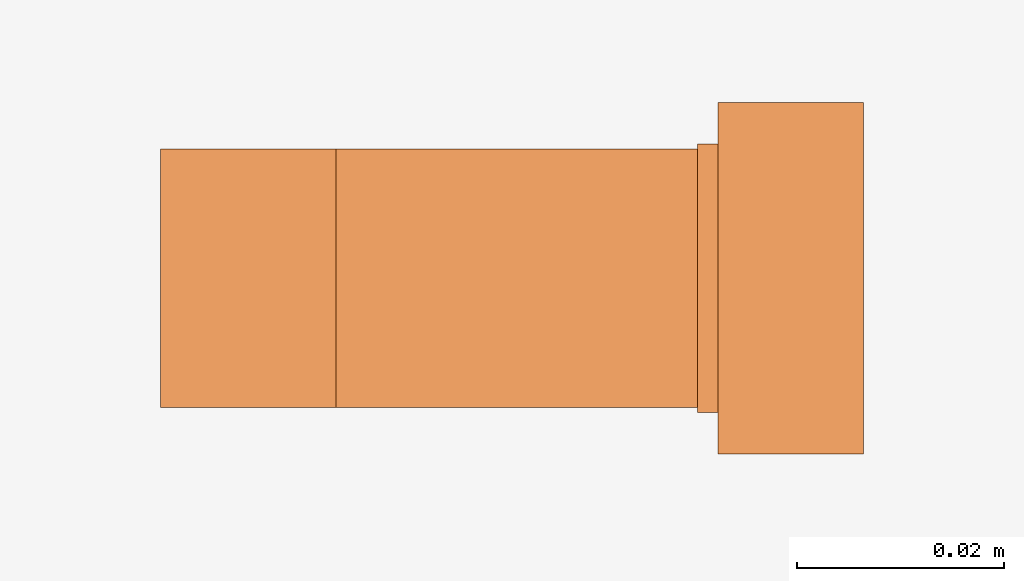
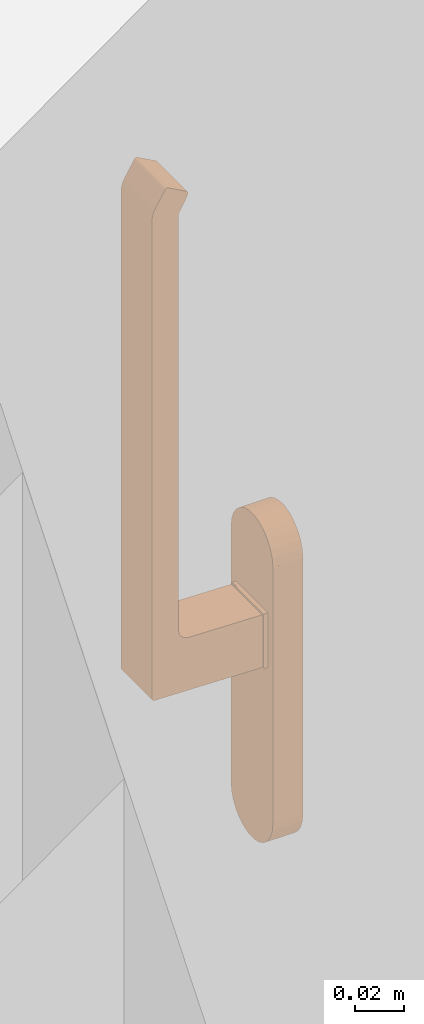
# One storey, part 22 of 22: 1 proxy.
"""IFC2X3 building model written with IfcOpenShell, lengths in millimetres."""

from ifc_helpers import new_model, entity, si_unit, converted_unit, derived_unit, direction, frame, frame_2d, origin, origin_2d_with_axis, place, context, subcontext, project, spatial, polyline, circle_curve, parameter, trimmed, segment, composite_curve, rectangle, outline, extrude, source, transform, mapped, material, material_list, type_object, type_shapes, element, save


model = new_model("IFC2X3")

# Units and contexts
model_context = context("Model", 3, precision=0.01, world=origin(), true_north=direction((6.123031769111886e-17, 1.0)))
body_context = subcontext(model_context, "Body", "Model", "MODEL_VIEW")
ifc_project = project(units=[si_unit("LENGTHUNIT", "METRE", prefix="MILLI"), si_unit("AREAUNIT", "SQUARE_METRE"), si_unit("VOLUMEUNIT", "CUBIC_METRE"), converted_unit("PLANEANGLEUNIT", "DEGREE", entity("IfcRatioMeasure", 0.017453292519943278), si_unit("PLANEANGLEUNIT", "RADIAN"), dimensions=[0, 0, 0, 0, 0, 0, 0]), si_unit("MASSUNIT", "GRAM", prefix="KILO"), derived_unit("MASSDENSITYUNIT", [(si_unit("MASSUNIT", "GRAM", prefix="KILO"), 1), (si_unit("LENGTHUNIT", "METRE"), -3)]), derived_unit("MOMENTOFINERTIAUNIT", [(si_unit("LENGTHUNIT", "METRE"), 4)]), si_unit("TIMEUNIT", "SECOND"), si_unit("FREQUENCYUNIT", "HERTZ"), si_unit("THERMODYNAMICTEMPERATUREUNIT", "DEGREE_CELSIUS"), derived_unit("THERMALTRANSMITTANCEUNIT", [(si_unit("MASSUNIT", "GRAM", prefix="KILO"), 1), (si_unit("THERMODYNAMICTEMPERATUREUNIT", "KELVIN"), -1), (si_unit("TIMEUNIT", "SECOND"), -3)]), derived_unit("VOLUMETRICFLOWRATEUNIT", [(si_unit("LENGTHUNIT", "METRE"), 3), (si_unit("TIMEUNIT", "SECOND"), -1)]), derived_unit("MASSFLOWRATEUNIT", [(si_unit("MASSUNIT", "GRAM", prefix="KILO"), 1), (si_unit("TIMEUNIT", "SECOND"), -1)]), derived_unit("ROTATIONALFREQUENCYUNIT", [(si_unit("TIMEUNIT", "SECOND"), -1)]), si_unit("ELECTRICCURRENTUNIT", "AMPERE"), si_unit("ELECTRICVOLTAGEUNIT", "VOLT"), si_unit("POWERUNIT", "WATT"), si_unit("FORCEUNIT", "NEWTON", prefix="KILO"), si_unit("ILLUMINANCEUNIT", "LUX"), si_unit("LUMINOUSFLUXUNIT", "LUMEN"), si_unit("LUMINOUSINTENSITYUNIT", "CANDELA"), derived_unit("USERDEFINED", [(si_unit("MASSUNIT", "GRAM", prefix="KILO"), -1), (si_unit("LENGTHUNIT", "METRE"), -2), (si_unit("TIMEUNIT", "SECOND"), 3), (si_unit("LUMINOUSFLUXUNIT", "LUMEN"), 1)]), derived_unit("SOUNDPOWERUNIT", [(si_unit("MASSUNIT", "GRAM", prefix="KILO"), 1), (si_unit("LENGTHUNIT", "METRE"), 2), (si_unit("TIMEUNIT", "SECOND"), -3)]), derived_unit("SOUNDPRESSUREUNIT", [(si_unit("MASSUNIT", "GRAM", prefix="KILO"), 1), (si_unit("LENGTHUNIT", "METRE"), -1), (si_unit("TIMEUNIT", "SECOND"), -2)]), derived_unit("LINEARVELOCITYUNIT", [(si_unit("LENGTHUNIT", "METRE"), 1), (si_unit("TIMEUNIT", "SECOND"), -1)]), si_unit("PRESSUREUNIT", "PASCAL"), derived_unit("USERDEFINED", [(si_unit("LENGTHUNIT", "METRE"), -2), (si_unit("MASSUNIT", "GRAM", prefix="KILO"), 1), (si_unit("TIMEUNIT", "SECOND"), -2)]), derived_unit("LINEARFORCEUNIT", [(si_unit("MASSUNIT", "GRAM", prefix="KILO"), 1), (si_unit("LENGTHUNIT", "METRE"), 1), (si_unit("TIMEUNIT", "SECOND"), -2), (si_unit("LENGTHUNIT", "METRE"), -1)]), derived_unit("PLANARFORCEUNIT", [(si_unit("MASSUNIT", "GRAM", prefix="KILO"), 1), (si_unit("LENGTHUNIT", "METRE"), 1), (si_unit("TIMEUNIT", "SECOND"), -2), (si_unit("LENGTHUNIT", "METRE"), -2)])], contexts=[model_context])

# Site, building, storey
site_placement = place(None, origin())
site = spatial("IfcSite", under=ifc_project, at=site_placement, Name="Default", CompositionType="ELEMENT")
building_placement = place(site_placement, origin())
building = spatial("IfcBuilding", under=site, at=building_placement, CompositionType="ELEMENT")
storey_placement = place(building_placement, frame((0.0, 0.0, 3300.0)))
storey = spatial("IfcBuildingStorey", under=building, at=storey_placement, Name="Level 2", CompositionType="ELEMENT", Elevation=3299.99999999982)

# Proxy
ifc_material = material(Name="Polished Steel")
ifc_material_list_1 = material_list([ifc_material, ifc_material, ifc_material, ifc_material, ifc_material])
ifc_material_list_2 = material_list([ifc_material, ifc_material, ifc_material, ifc_material, ifc_material])
building_element_proxy_type = type_object("IfcBuildingElementProxyType", Name="Alumil Chic no lock:Alumil Chic no lock:Alumil Chic no lock : Alumil Chic no lock:Alumil Chic no lock", PredefinedType="NOTDEFINED", material=ifc_material_list_2)
shared_shape = source(origin(), body_context, "Body", "SweptSolid", [
    extrude(outline(composite_curve([segment(trimmed(circle_curve(frame_2d((0.0, 0.3125), x_axis=(1.0, 0.0)), 17.0), [parameter(181.05329056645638)], [parameter(358.94670943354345)], True, "PARAMETER"), True, "CONTINUOUS"), segment(polyline([(16.997127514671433, 0.0), (-16.997127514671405, 0.0)]), True, "CONTINUOUS")], self_intersect=False)), frame((5824.21753915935, -254.039476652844, 4500.0), z_axis=(-1.0, 0.0, 0.0), x_axis=(0.0, 1.0, 0.0)), (0.0, 0.0, -1.0), 14.085299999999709),
    extrude(outline(composite_curve([segment(trimmed(circle_curve(origin_2d_with_axis(), 17.0), [parameter(180.00000000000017)], [parameter(0.0)], True, "PARAMETER"), True, "CONTINUOUS"), segment(polyline([(17.0, 0.0), (-17.0, 0.0)]), True, "CONTINUOUS")], self_intersect=False)), frame((5824.21753915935, -254.039476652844, 4373.638590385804), z_axis=(1.0, 0.0, 0.0), x_axis=(0.0, 1.0, 0.0)), (0.0, 0.0, 1.0), 14.085299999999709),
    extrude(rectangle(XDim=14.085299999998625, YDim=33.999999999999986, at=origin_2d_with_axis()), frame((5831.2601891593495, -254.039476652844, 4373.638590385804)), (0.0, 0.0, 1.0), 126.36140961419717),
    extrude(outline(composite_curve([segment(trimmed(circle_curve(frame_2d((8.93985071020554, -9.376473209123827), x_axis=(-0.7071067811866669, -0.7071067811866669)), 0.535018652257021), [parameter(0.0)], [parameter(90.00000000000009)], True, "PARAMETER"), True, "CONTINUOUS"), segment(polyline([(9.318166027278, -9.754788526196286), (10.351660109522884, -8.721294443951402)]), True, "CONTINUOUS"), segment(polyline([(10.351660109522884, -8.721294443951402), (-8.721131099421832, 10.351496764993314)]), True, "CONTINUOUS"), segment(polyline([(-8.721131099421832, 10.351496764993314), (-9.75511521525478, 9.317512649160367)]), True, "CONTINUOUS"), segment(trimmed(circle_curve(frame_2d((-9.377289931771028, 8.939687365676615), x_axis=(-0.7071067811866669, -0.7071067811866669)), 0.5343256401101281), [parameter(269.9999999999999)], [parameter(0.0)], True, "PARAMETER"), True, "CONTINUOUS"), segment(polyline([(-9.755115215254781, 8.561862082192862), (8.561535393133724, -9.754788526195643)]), True, "CONTINUOUS")], self_intersect=False)), frame((5823.064696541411, -267.039476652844, 4461.75027488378), z_axis=(0.0, 1.0, 0.0), x_axis=(0.7071067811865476, 0.0, 0.7071067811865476)), (0.0, 0.0, 1.0), 26.000000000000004),
    extrude(outline(composite_curve([segment(trimmed(circle_curve(frame_2d((7.304351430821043, 108.61682666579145), x_axis=(1.0, 0.0)), 12.184037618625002), [parameter(0.0)], [parameter(31.000000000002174)], True, "PARAMETER"), True, "CONTINUOUS"), segment(polyline([(17.748110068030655, 114.89206994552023), (13.238760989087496, 122.39688709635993)]), True, "CONTINUOUS"), segment(trimmed(circle_curve(frame_2d((12.298825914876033, 121.83211712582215), x_axis=(1.0, 0.0)), 1.09655964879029), [parameter(31.000000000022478)], [parameter(118.99999999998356)], True, "PARAMETER"), True, "CONTINUOUS"), segment(polyline([(11.76720324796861, 122.79118980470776), (3.230443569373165, 118.05918664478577)]), True, "CONTINUOUS"), segment(trimmed(circle_curve(frame_2d((3.929020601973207, 116.7989203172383), x_axis=(1.0, 0.0)), 1.44093063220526), [parameter(118.99999999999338)], [parameter(208.99999999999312)], True, "PARAMETER"), True, "CONTINUOUS"), segment(polyline([(2.668754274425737, 116.10034328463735), (6.54934798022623, 109.09956692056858)]), True, "CONTINUOUS"), segment(trimmed(circle_curve(frame_2d((3.3995171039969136, 107.35358715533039), x_axis=(1.0, 0.0)), 3.60137194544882), [parameter(0.0)], [parameter(29.000000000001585)], True, "PARAMETER"), False, "CONTINUOUS"), segment(polyline([(7.000889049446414, 107.35358715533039), (7.000889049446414, -97.39091934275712)]), True, "CONTINUOUS"), segment(trimmed(circle_curve(frame_2d((2.000889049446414, -97.39091934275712), x_axis=(1.0, 0.0)), 5.0), [parameter(271.4994993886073)], [parameter(0.0)], True, "PARAMETER"), False, "CONTINUOUS"), segment(polyline([(2.131730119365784, -102.38920711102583), (-31.72935173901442, -103.27559468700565)]), True, "CONTINUOUS"), segment(trimmed(circle_curve(frame_2d((-31.70972865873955, -104.02522018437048), x_axis=(1.0, 0.0)), 0.7498822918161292), [parameter(91.49949938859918)], [parameter(180.00000000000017)], True, "PARAMETER"), True, "CONTINUOUS"), segment(polyline([(-32.45961095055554, -104.02522018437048), (-32.459610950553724, -128.47106480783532)]), True, "CONTINUOUS"), segment(trimmed(circle_curve(frame_2d((-31.683465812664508, -128.47106480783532), x_axis=(1.0, 0.0)), 0.7761451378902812), [parameter(180.00000000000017)], [parameter(271.4172927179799)], True, "PARAMETER"), True, "CONTINUOUS"), segment(polyline([(-31.664268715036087, -129.24697249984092), (17.99993590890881, -128.01820702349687)]), True, "CONTINUOUS"), segment(trimmed(circle_curve(frame_2d((17.962186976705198, -126.49247186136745), x_axis=(1.0, 0.0)), 1.52620207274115), [parameter(271.4172927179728)], [parameter(0.0)], True, "PARAMETER"), True, "CONTINUOUS"), segment(polyline([(19.488389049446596, -126.49247186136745), (19.488389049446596, 108.61682666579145)]), True, "CONTINUOUS")], self_intersect=False)), frame((5789.761328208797, -266.5394766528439, 4578.031637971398), z_axis=(0.0, 1.0, 0.0), x_axis=(-1.0, 0.0, 0.0)), (0.0, 0.0, 1.0), 25.0),
])
type_shapes(building_element_proxy_type, [shared_shape])
proxy_placement = place(storey_placement, frame((0.0, 0.0, -3300.0)))
element("IfcBuildingElementProxy", 1, at=proxy_placement, inside=storey, type_object=building_element_proxy_type, material=ifc_material_list_1, Name="Alumil Chic no lock:Alumil Chic no lock:Alumil Chic no lock : Alumil Chic no lock:Alumil Chic no lock:Alumil Chic no lock:Alumil Chic no lock : Alumil Chic no lock:Alumil Chic no lock : Alumil Chic no lock:Alumil Chic no lock:Alumil Chic no lock : Alumil Chic no lock:Alumil Chic no lock", ObjectType="Alumil Chic no lock:Alumil Chic no lock:Alumil Chic no lock : Alumil Chic no lock:Alumil Chic no lock:Alumil Chic no lock:Alumil Chic no lock : Alumil Chic no lock:Alumil Chic no lock : Alumil Chic no lock:Alumil Chic no lock:Alumil Chic no lock : Alumil Chic no lock:Alumil Chic no lock", context=body_context, shape_type="MappedRepresentation", body=[
    mapped(shared_shape, transform((0.0, 0.0, 0.0), scale=1.0)),
])

save(model, "model.ifc")
